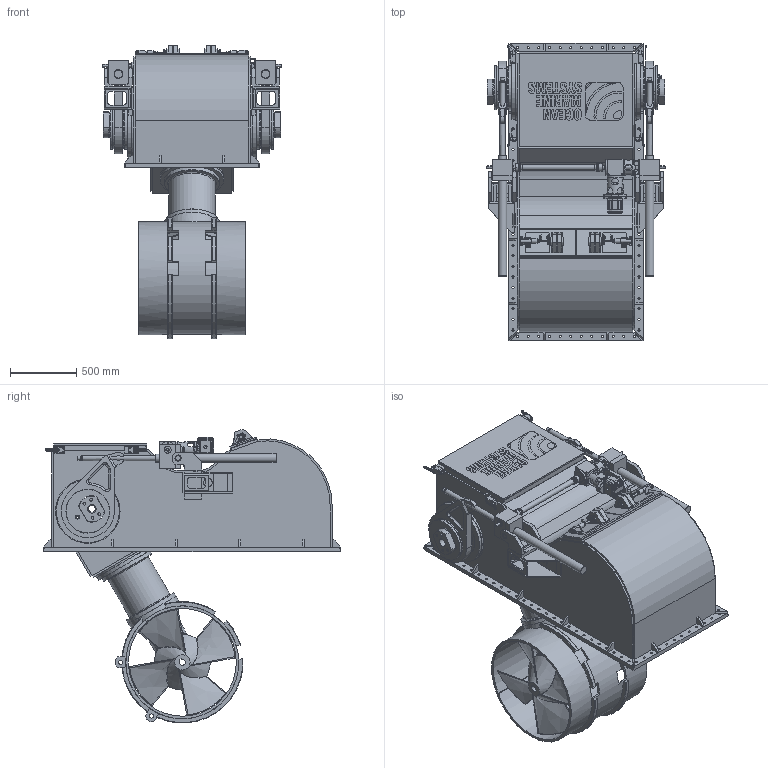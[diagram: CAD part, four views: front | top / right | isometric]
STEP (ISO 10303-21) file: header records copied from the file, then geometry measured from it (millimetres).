
FILE_DESCRIPTION(/* description */ (''),/* implementation_level */ '2;1');
FILE_NAME(/* name */ 'Q:\THRUSTERS\THRUSTER SALES & SUPPORT DOCS\THRUSTER Sales\H-S\H-0800-S\H-0800-S Deployed.stp',/* time_stamp */ '2021-01-26T12:51:06+00:00',/* author */ ('Barney.Webborn'),/* organization */ (''),/* preprocessor_version */ 'ST-DEVELOPER v17.2',/* originating_system */ 'Autodesk Inventor 2019',/* authorisation */ '');
FILE_SCHEMA (('AUTOMOTIVE_DESIGN { 1 0 10303 214 3 1 1 }'));
Length unit declared in the file: millimetre
Products named in the file (1): H-0800-S_Shrinkwrap_1
Bounding box: 1349 x 2238 x 2212.66 mm (x, y, z)
Volume: 312374002.1 mm3; surface area: 31607711.5 mm2
Topology: 12 solids, 12 shells, 5649 faces, 15160 edges, 9679 vertices
Faces by surface type: plane 2617, cylinder 1306, bspline 1173, cone 340, torus 165, sphere 48
Full cylindrical faces by diameter (mm): 3 x12, 7.2 x4, 8 x4, 10 x8, 12 x2, 15.6 x2, 15.8 x16, 16 x18, 16.5 x8, 17 x82, 17.5 x12, 17.78 x1, 18.376 x4, 20 x9, 21 x8, 23.75 x2, 24.5 x2, 24.962 x2, 24.98 x1, 25 x7, 25.5 x1, 26.25 x2, 28 x2, 29.425 x1, 30 x3, 30.291 x1, 30.861 x1, 31.25 x3, 31.42 x1, 32 x4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
Entity records: 283010 total; most frequent: CARTESIAN_POINT 141083, ORIENTED_EDGE 30154, DIRECTION 25812, EDGE_CURVE 15077, VERTEX_POINT 9679, AXIS2_PLACEMENT_3D 8935, LINE 7942, VECTOR 7942
